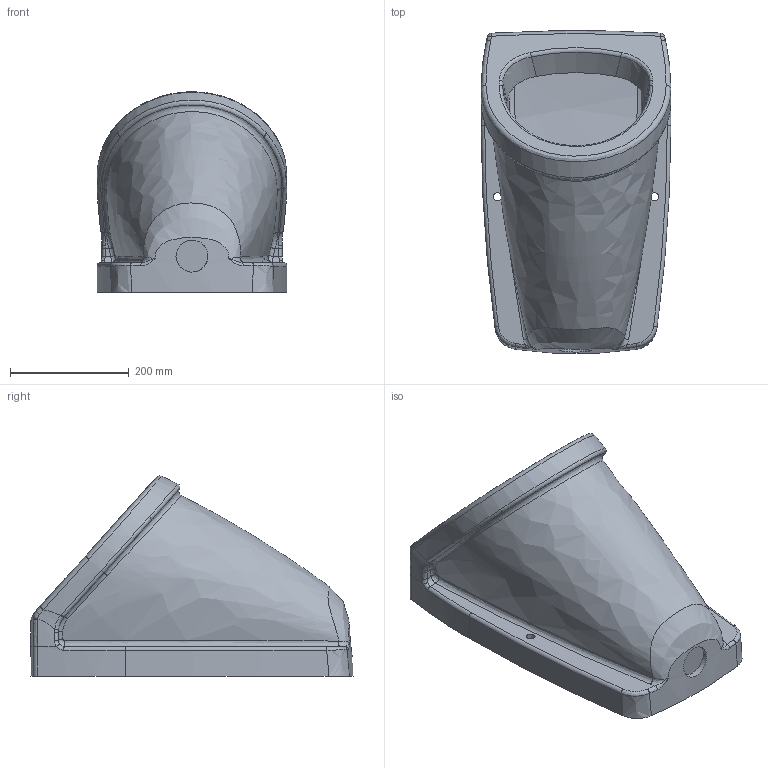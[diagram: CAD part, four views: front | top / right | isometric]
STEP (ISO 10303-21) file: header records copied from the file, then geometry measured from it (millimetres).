
FILE_DESCRIPTION(/* description */ (''),/* implementation_level */ '2;1');
FILE_NAME(/* name */ '7G5000.stp',/* time_stamp */ '2021-05-19T08:14:44+02:00',/* author */ (''),/* organization */ (''),/* preprocessor_version */ 'ST-DEVELOPER v16.7',/* originating_system */ 'SIEMENS PLM Software NX 1863',/* authorisation */ '');
FILE_SCHEMA (('AUTOMOTIVE_DESIGN { 1 0 10303 214 3 1 1 1 }'));
Length unit declared in the file: millimetre
Products named in the file (1): Muel1DE85134cafr
Bounding box: 320 x 544.16 x 338.05 mm (x, y, z)
Volume: 17955961.8 mm3; surface area: 860554.8 mm2
Topology: 1 solids, 1 shells, 119 faces, 285 edges, 170 vertices
Faces by surface type: bspline 74, cylinder 16, plane 12, torus 9, cone 5, sphere 2, extrusion 1
Full cylindrical faces by diameter (mm): 14 x2, 34 x1, 35 x1, 54 x1
Entity records: 10193 total; most frequent: CARTESIAN_POINT 8025, ORIENTED_EDGE 542, DIRECTION 290, EDGE_CURVE 271, VERTEX_POINT 164, B_SPLINE_CURVE_WITH_KNOTS 159, AXIS2_PLACEMENT_3D 134, EDGE_LOOP 133
